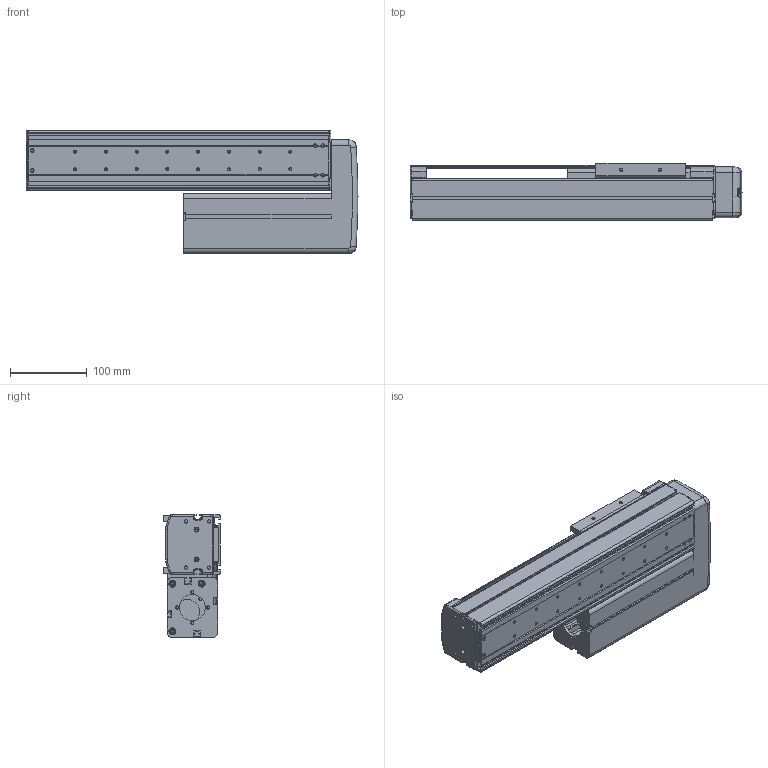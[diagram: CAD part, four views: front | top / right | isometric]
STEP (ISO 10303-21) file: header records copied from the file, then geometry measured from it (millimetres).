
FILE_DESCRIPTION((''),'2;1');
FILE_NAME('BE10E-UL-M_B-20_IGS_PRT','2017-06-17T',(' '),(''),'PRO/ENGINEER BY PARAMETRIC TECHNOLOGY CORPORATION, 2015030','PRO/ENGINEER BY PARAMETRIC TECHNOLOGY CORPORATION, 2015030','');
FILE_SCHEMA(('CONFIG_CONTROL_DESIGN'));
Length unit declared in the file: millimetre
Products named in the file (1): BE10E-UL-M_B-20_IGS_PRT
Bounding box: 432 x 75 x 160 mm (x, y, z)
Volume: 922562.4 mm3; surface area: 612406.9 mm2
Topology: 2 solids, 90 shells, 1693 faces, 4554 edges, 2939 vertices
Faces by surface type: cylinder 773, plane 692, cone 81, torus 71, sphere 44, bspline 32
Entity records: 55123 total; most frequent: CARTESIAN_POINT 11637, DIRECTION 9434, ORIENTED_EDGE 8704, EDGE_CURVE 4520, AXIS2_PLACEMENT_3D 3488, VERTEX_POINT 2939, VECTOR 2458, LINE 2458
